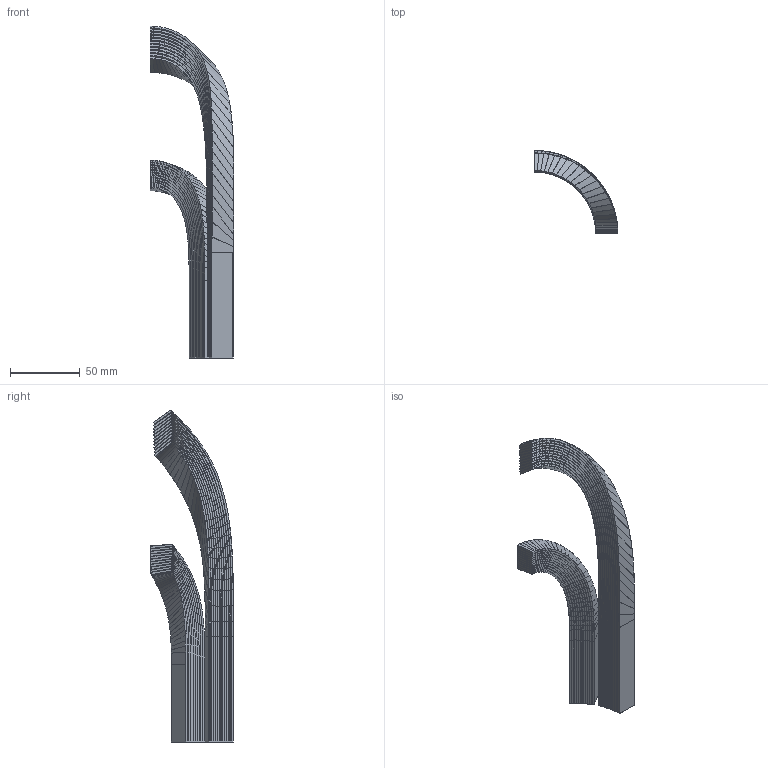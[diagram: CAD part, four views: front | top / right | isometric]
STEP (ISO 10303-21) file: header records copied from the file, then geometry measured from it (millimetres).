
FILE_DESCRIPTION(('Open CASCADE Model'),'2;1');
FILE_NAME('Open CASCADE Shape Model','2026-05-12T13:44:44',('Author'),( 'Open CASCADE'),'Open CASCADE STEP processor 7.8','Open CASCADE 7.8' ,'Unknown');
FILE_SCHEMA(('AUTOMOTIVE_DESIGN { 1 0 10303 214 1 1 1 1 }'));
Length unit declared in the file: millimetre
Products named in the file (47): Model; cables; coil_001; coil_002; coil_003; coil_004; coil_005; coil_006; coil_007; coil_008; coil_009; coil_010; coil_011; coil_012; coil_013; coil_014; coil_015; coil_016; coil_017; coil_018; coil_019; coil_020; coil_021; coil_022; insulations; insulation_001; insulation_002; insulation_003; insulation_004; insulation_005; insulation_006; insulation_007; insulation_008; insulation_009; insulation_010; insulation_011; insulation_012; insulation_013; insulation_014; insulation_015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
Assembly tree (46 placements, depth 3):
  Model
    cables
      coil_001
      coil_002
      coil_003
      coil_004
      coil_005
      coil_006
      coil_007
      coil_008
      coil_009
      coil_010
      coil_011
      coil_012
      coil_013
      coil_014
      coil_015
      coil_016
      coil_017
      coil_018
      coil_019
      coil_020
      coil_021
      coil_022
    insulations
      insulation_001
      insulation_002
      insulation_003
      insulation_004
      insulation_005
      insulation_006
      insulation_007
      insulation_008
      insulation_009
      insulation_010
      insulation_011
      insulation_012
      insulation_013
      insulation_014
      insulation_015
      insulation_016
      insulation_017
      insulation_018
      insulation_019
      insulation_020
      insulation_021
      insulation_022
Bounding box: 60.03 x 59.43 x 238.35 mm (x, y, z)
Volume: 122544 mm3; surface area: 461173.2 mm2
Topology: 44 solids, 44 shells, 8536 faces, 17160 edges, 8712 vertices
Faces by surface type: bspline 8448, plane 88
Entity records: 453695 total; most frequent: CARTESIAN_POINT 168918, ORIENTED_EDGE 34320, PCURVE 34320, DEFINITIONAL_REPRESENTATION 34320, DIRECTION 26055, LINE 25785, VECTOR 25785, B_SPLINE_CURVE_WITH_KNOTS 25695
